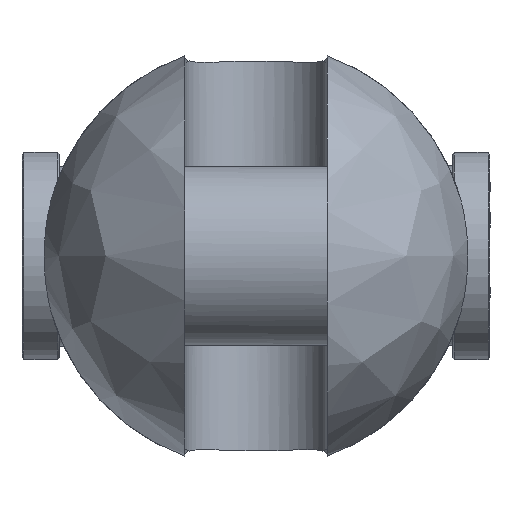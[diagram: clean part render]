
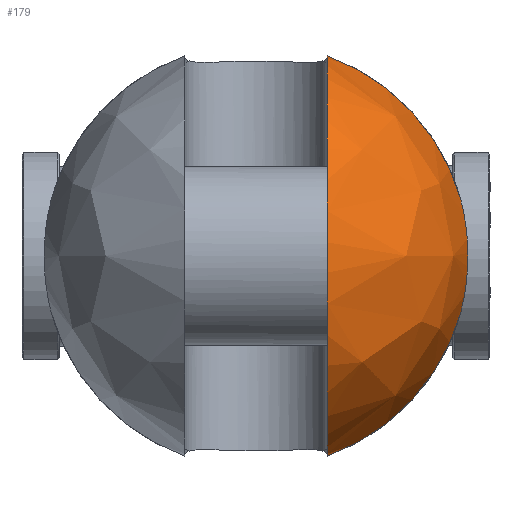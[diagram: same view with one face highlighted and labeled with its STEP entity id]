
A CAD part, left-side view. The second image highlights one B-rep face of the part: STEP entity #179.
In plain terms, the highlighted free-form (B-spline) face has degree [2, 2] with [9, 5] control points.
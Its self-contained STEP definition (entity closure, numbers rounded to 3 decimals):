
#179=ADVANCED_FACE('',(#320),#2417,.T.);
#320=FACE_OUTER_BOUND('',#481,.T.);
#481=EDGE_LOOP('',(#1194,#1195,#1196,#1197));
#1194=ORIENTED_EDGE('',*,*,#1579,.T.);
#1195=ORIENTED_EDGE('',*,*,#1603,.F.);
#1196=ORIENTED_EDGE('',*,*,#1615,.T.);
#1197=ORIENTED_EDGE('',*,*,#1595,.F.);
#1579=EDGE_CURVE('',#2249,#2248,#1983,.T.);
#1595=EDGE_CURVE('',#2249,#2261,#1993,.T.);
#1603=EDGE_CURVE('',#2268,#2248,#1994,.T.);
#1615=EDGE_CURVE('',#2268,#2261,#1789,.T.);
#1789=B_SPLINE_CURVE_WITH_KNOTS('',3,(#6139,#6140,#6141,#6142,#6143,#6144,
#6145,#6146,#6147,#6148,#6149,#6150,#6151,#6152),.UNSPECIFIED.,.F.,.F.,
(4,2,2,2,2,2,4),(0.,4.397,10.811,17.225,23.64,
30.054,34.451),.UNSPECIFIED.);
#1983=(
BOUNDED_CURVE()
B_SPLINE_CURVE(2,(#5907,#5908,#5909,#5910,#5911),.UNSPECIFIED.,.F.,.F.)
B_SPLINE_CURVE_WITH_KNOTS((3,2,3),(-184.934,-92.467,
0.),.UNSPECIFIED.)
CURVE()
GEOMETRIC_REPRESENTATION_ITEM()
RATIONAL_B_SPLINE_CURVE((1.,0.707,1.,0.707,1.))
REPRESENTATION_ITEM('')
);
#1993=(
BOUNDED_CURVE()
B_SPLINE_CURVE(2,(#6009,#6010,#6011),.UNSPECIFIED.,.F.,.F.)
B_SPLINE_CURVE_WITH_KNOTS((3,3),(0.,60.345),.UNSPECIFIED.)
CURVE()
GEOMETRIC_REPRESENTATION_ITEM()
RATIONAL_B_SPLINE_CURVE((1.,0.886,1.))
REPRESENTATION_ITEM('')
);
#1994=(
BOUNDED_CURVE()
B_SPLINE_CURVE(2,(#6066,#6067,#6068),.UNSPECIFIED.,.F.,.F.)
B_SPLINE_CURVE_WITH_KNOTS((3,3),(0.,60.345),.UNSPECIFIED.)
CURVE()
GEOMETRIC_REPRESENTATION_ITEM()
RATIONAL_B_SPLINE_CURVE((1.,0.886,1.))
REPRESENTATION_ITEM('')
);
#2248=VERTEX_POINT('',#5767);
#2249=VERTEX_POINT('',#5768);
#2261=VERTEX_POINT('',#5780);
#2268=VERTEX_POINT('',#5787);
#2417=(
BOUNDED_SURFACE()
B_SPLINE_SURFACE(2,2,((#5481,#5482,#5483,#5484,#5485),(#5486,#5487,#5488,
#5489,#5490),(#5491,#5492,#5493,#5494,#5495),(#5496,#5497,#5498,#5499,#5500),
(#5501,#5502,#5503,#5504,#5505),(#5506,#5507,#5508,#5509,#5510),(#5511,
#5512,#5513,#5514,#5515),(#5516,#5517,#5518,#5519,#5520),(#5521,#5522,#5523,
#5524,#5525)),.UNSPECIFIED.,.T.,.F.,.F.)
B_SPLINE_SURFACE_WITH_KNOTS((3,2,2,2,3),(3,2,3),(0.,98.175,196.35,
294.524,392.699),(0.,98.175,196.35),
 .UNSPECIFIED.)
GEOMETRIC_REPRESENTATION_ITEM()
RATIONAL_B_SPLINE_SURFACE(((1.,0.707,1.,0.707,1.),
(0.707,0.5,0.707,0.5,0.707),(1.,0.707,
1.,0.707,1.),(0.707,0.5,0.707,0.5,0.707),
(1.,0.707,1.,0.707,1.),(0.707,0.5,0.707,
0.5,0.707),(1.,0.707,1.,0.707,1.),(0.707,
0.5,0.707,0.5,0.707),(1.,0.707,1.,0.707,
1.)))
REPRESENTATION_ITEM('')
SURFACE()
);
#5481=CARTESIAN_POINT('',(-89.5,0.,0.));
#5482=CARTESIAN_POINT('',(-89.5,62.5,0.));
#5483=CARTESIAN_POINT('',(-27.,62.5,0.));
#5484=CARTESIAN_POINT('',(35.5,62.5,0.));
#5485=CARTESIAN_POINT('',(35.5,0.,0.));
#5486=CARTESIAN_POINT('',(-89.5,0.,0.));
#5487=CARTESIAN_POINT('',(-89.5,62.5,62.5));
#5488=CARTESIAN_POINT('',(-27.,62.5,62.5));
#5489=CARTESIAN_POINT('',(35.5,62.5,62.5));
#5490=CARTESIAN_POINT('',(35.5,0.,0.));
#5491=CARTESIAN_POINT('',(-89.5,0.,0.));
#5492=CARTESIAN_POINT('',(-89.5,0.,62.5));
#5493=CARTESIAN_POINT('',(-27.,0.,62.5));
#5494=CARTESIAN_POINT('',(35.5,0.,62.5));
#5495=CARTESIAN_POINT('',(35.5,0.,0.));
#5496=CARTESIAN_POINT('',(-89.5,0.,0.));
#5497=CARTESIAN_POINT('',(-89.5,-62.5,62.5));
#5498=CARTESIAN_POINT('',(-27.,-62.5,62.5));
#5499=CARTESIAN_POINT('',(35.5,-62.5,62.5));
#5500=CARTESIAN_POINT('',(35.5,0.,0.));
#5501=CARTESIAN_POINT('',(-89.5,0.,0.));
#5502=CARTESIAN_POINT('',(-89.5,-62.5,0.));
#5503=CARTESIAN_POINT('',(-27.,-62.5,0.));
#5504=CARTESIAN_POINT('',(35.5,-62.5,0.));
#5505=CARTESIAN_POINT('',(35.5,0.,0.));
#5506=CARTESIAN_POINT('',(-89.5,0.,0.));
#5507=CARTESIAN_POINT('',(-89.5,-62.5,-62.5));
#5508=CARTESIAN_POINT('',(-27.,-62.5,-62.5));
#5509=CARTESIAN_POINT('',(35.5,-62.5,-62.5));
#5510=CARTESIAN_POINT('',(35.5,0.,0.));
#5511=CARTESIAN_POINT('',(-89.5,0.,0.));
#5512=CARTESIAN_POINT('',(-89.5,0.,-62.5));
#5513=CARTESIAN_POINT('',(-27.,0.,-62.5));
#5514=CARTESIAN_POINT('',(35.5,0.,-62.5));
#5515=CARTESIAN_POINT('',(35.5,0.,0.));
#5516=CARTESIAN_POINT('',(-89.5,0.,0.));
#5517=CARTESIAN_POINT('',(-89.5,62.5,-62.5));
#5518=CARTESIAN_POINT('',(-27.,62.5,-62.5));
#5519=CARTESIAN_POINT('',(35.5,62.5,-62.5));
#5520=CARTESIAN_POINT('',(35.5,0.,0.));
#5521=CARTESIAN_POINT('',(-89.5,0.,0.));
#5522=CARTESIAN_POINT('',(-89.5,62.5,0.));
#5523=CARTESIAN_POINT('',(-27.,62.5,0.));
#5524=CARTESIAN_POINT('',(35.5,62.5,0.));
#5525=CARTESIAN_POINT('',(35.5,0.,0.));
#5767=CARTESIAN_POINT('',(-27.,-21.,-58.866));
#5768=CARTESIAN_POINT('',(-27.,-21.,58.866));
#5780=CARTESIAN_POINT('',(-27.,-60.357,16.225));
#5787=CARTESIAN_POINT('',(-27.,-60.357,-16.225));
#5907=CARTESIAN_POINT('',(-27.,-21.,58.866));
#5908=CARTESIAN_POINT('',(-85.866,-21.,58.866));
#5909=CARTESIAN_POINT('',(-85.866,-21.,0.));
#5910=CARTESIAN_POINT('',(-85.866,-21.,-58.866));
#5911=CARTESIAN_POINT('',(-27.,-21.,-58.866));
#6009=CARTESIAN_POINT('',(-27.,-21.,58.866));
#6010=CARTESIAN_POINT('',(-27.,-51.853,47.86));
#6011=CARTESIAN_POINT('',(-27.,-60.357,16.225));
#6066=CARTESIAN_POINT('',(-27.,-60.357,-16.225));
#6067=CARTESIAN_POINT('',(-27.,-51.853,-47.86));
#6068=CARTESIAN_POINT('',(-27.,-21.,-58.866));
#6139=CARTESIAN_POINT('',(-27.,-60.357,-16.225));
#6140=CARTESIAN_POINT('',(-27.742,-60.689,-14.99));
#6141=CARTESIAN_POINT('',(-28.407,-60.984,-13.691));
#6142=CARTESIAN_POINT('',(-29.815,-61.605,-10.386));
#6143=CARTESIAN_POINT('',(-30.454,-61.883,-8.326));
#6144=CARTESIAN_POINT('',(-31.297,-62.25,-4.157));
#6145=CARTESIAN_POINT('',(-31.5,-62.338,-2.048));
#6146=CARTESIAN_POINT('',(-31.5,-62.338,2.048));
#6147=CARTESIAN_POINT('',(-31.297,-62.25,4.157));
#6148=CARTESIAN_POINT('',(-30.454,-61.883,8.326));
#6149=CARTESIAN_POINT('',(-29.815,-61.605,10.386));
#6150=CARTESIAN_POINT('',(-28.407,-60.984,13.691));
#6151=CARTESIAN_POINT('',(-27.742,-60.689,14.99));
#6152=CARTESIAN_POINT('',(-27.,-60.357,16.225));
